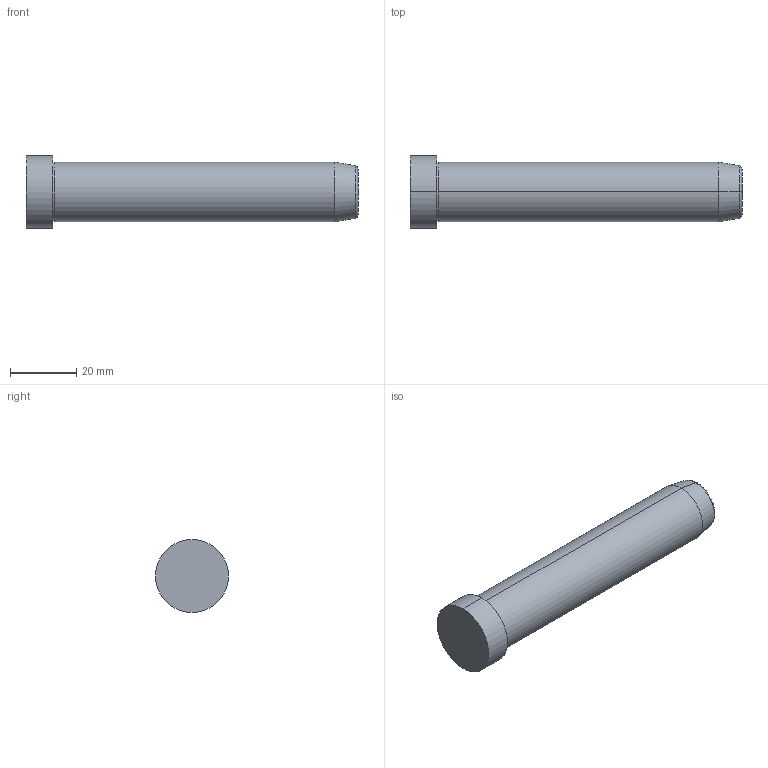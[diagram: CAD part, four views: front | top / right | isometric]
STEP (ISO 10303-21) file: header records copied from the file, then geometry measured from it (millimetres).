
FILE_DESCRIPTION( ( 'STEP AP203' ), '1' );
FILE_NAME( 'D:/Delta 3 D/D01D/18/D01D - 18x100.step', '2003-01-02T23:21:05', ( ' ' ), ( ' ' ), 'XStep 1.0', ' ', ' ' );
FILE_SCHEMA( ( 'CONFIG_CONTROL_DESIGN' ) );
Length unit declared in the file: metre
Products named in the file (1): 1
Bounding box: 100 x 22 x 22 mm (x, y, z)
Volume: 26205.4 mm3; surface area: 6442.2 mm2
Topology: 1 solids, 1 shells, 14 faces, 26 edges, 16 vertices
Faces by surface type: revolution 8, bspline 6
Entity records: 437 total; most frequent: CARTESIAN_POINT 121, ORIENTED_EDGE 52, DIRECTION 50, EDGE_CURVE 26, AXIS2_PLACEMENT_3D 17, EDGE_LOOP 16, VERTEX_POINT 16, CIRCLE 16
